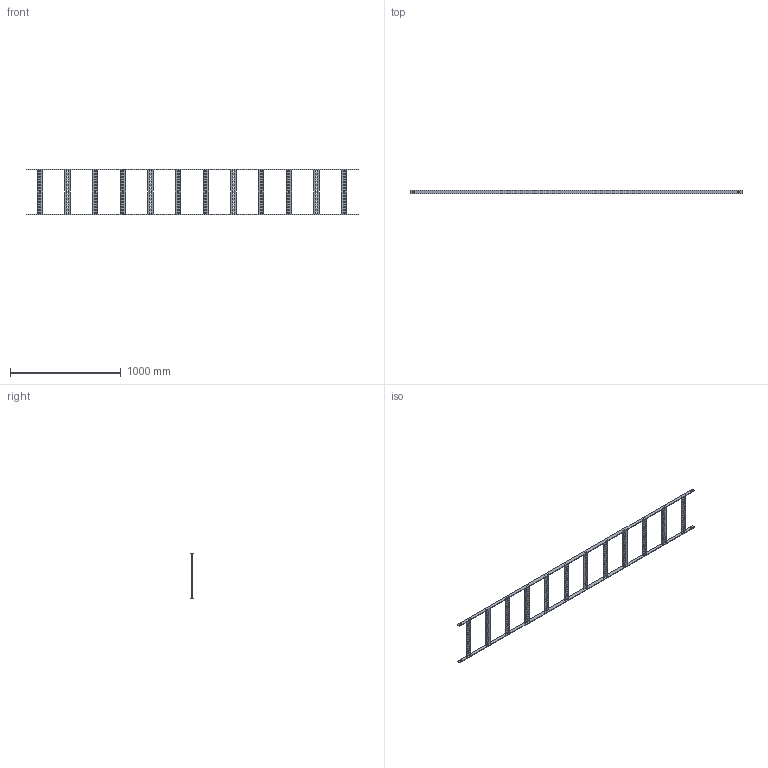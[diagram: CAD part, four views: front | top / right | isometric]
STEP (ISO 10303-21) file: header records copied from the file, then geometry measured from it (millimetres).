
FILE_DESCRIPTION(('Creo Elements/Direct Modeling STEP Export'),'2;1');
FILE_NAME('//pserver/office/EK/ME10-3D/3D-output/SKL 400F.stp','2020-03-10T 9:29:16',(''),(''),'PTC Creo Elements/Direct Modeling STEP processor for AP214 (Solid Model)','PTC Creo Elements/Direct Modeling 19.0C 15-Aug-2015 (C) Parametric Technology GmbH','');
FILE_SCHEMA(('AUTOMOTIVE_DESIGN { 1 0 10303 214 1 1 1 1 }'));
Length unit declared in the file: millimetre
Products named in the file (3): SKL_Holm-L3000; SKLSP_040B.005; SKL_400F
Assembly tree (14 placements, depth 2):
  SKL_400F
    SKLSP_040B.005  x12
    SKL_Holm-L3000  x2
Bounding box: 3000 x 30 x 410 mm (x, y, z)
Volume: 1756523.5 mm3; surface area: 930384.8 mm2
Topology: 14 solids, 14 shells, 868 faces, 2520 edges, 1680 vertices
Faces by surface type: plane 476, cylinder 392
Entity records: 2999 total; most frequent: DIRECTION 510, CARTESIAN_POINT 499, ORIENTED_EDGE 480, EDGE_CURVE 240, AXIS2_PLACEMENT_3D 171, VECTOR 168, LINE 168, VERTEX_POINT 160
